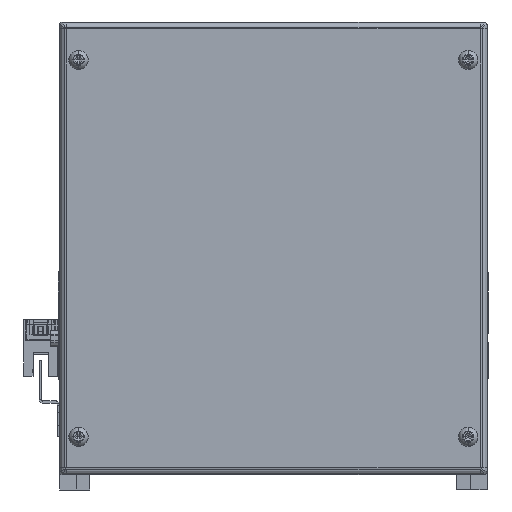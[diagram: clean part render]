
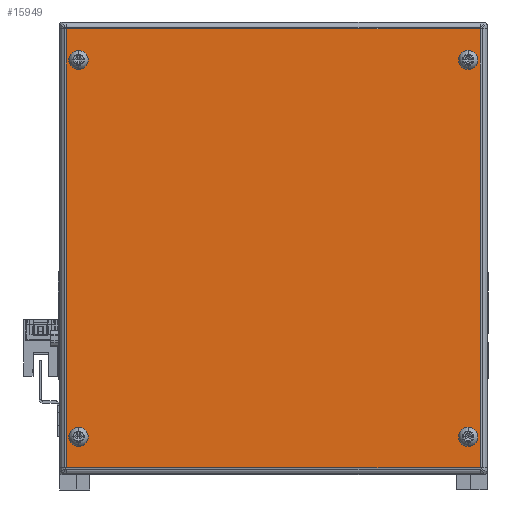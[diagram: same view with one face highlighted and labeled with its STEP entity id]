
A CAD part, front view. The second image highlights one B-rep face of the part: STEP entity #15949.
In plain terms, the highlighted planar face has unit normal (0, -1, 0) as drawn and (0, 0, -1) by its records, which use the part's own axes.
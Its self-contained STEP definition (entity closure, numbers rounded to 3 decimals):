
#87 = EDGE_LOOP ( 'NONE', ( #10255, #37662 ) ) ;
#102 = CIRCLE ( 'NONE', #13486, 2.25 ) ;
#402 = ORIENTED_EDGE ( 'NONE', *, *, #27666, .F. ) ;
#908 = VECTOR ( 'NONE', #5946, 1000. ) ;
#1025 = AXIS2_PLACEMENT_3D ( 'NONE', #35535, #29241, #13561 ) ;
#1084 = AXIS2_PLACEMENT_3D ( 'NONE', #15056, #40496, #2435 ) ;
#1915 = DIRECTION ( 'NONE',  ( 0., 0., -1. ) ) ;
#2435 = DIRECTION ( 'NONE',  ( 0., -1., 0. ) ) ;
#3034 = DIRECTION ( 'NONE',  ( 0., -1., 0. ) ) ;
#3249 = DIRECTION ( 'NONE',  ( 0., -1., 0. ) ) ;
#3390 = DIRECTION ( 'NONE',  ( 0., 0., -1. ) ) ;
#3409 = FACE_BOUND ( 'NONE', #87, .T. ) ;
#3608 = AXIS2_PLACEMENT_3D ( 'NONE', #5867, #12220, #12353 ) ;
#3673 = ORIENTED_EDGE ( 'NONE', *, *, #32552, .T. ) ;
#4579 = AXIS2_PLACEMENT_3D ( 'NONE', #11339, #1915, #33729 ) ;
#5061 = VECTOR ( 'NONE', #37919, 1000. ) ;
#5438 = VERTEX_POINT ( 'NONE', #24183 ) ;
#5671 = CARTESIAN_POINT ( 'NONE',  ( 72.531, 57.499, -242.5 ) ) ;
#5812 = DIRECTION ( 'NONE',  ( 0., -1., 0. ) ) ;
#5867 = CARTESIAN_POINT ( 'NONE',  ( 67.767, 45.206, -242.5 ) ) ;
#5946 = DIRECTION ( 'NONE',  ( 0., -1., 0. ) ) ;
#6219 = AXIS2_PLACEMENT_3D ( 'NONE', #38640, #3390, #3249 ) ;
#6342 = CIRCLE ( 'NONE', #4579, 2.25 ) ;
#6354 = EDGE_CURVE ( 'NONE', #10959, #32589, #39271, .T. ) ;
#6360 = EDGE_LOOP ( 'NONE', ( #7571, #402 ) ) ;
#7571 = ORIENTED_EDGE ( 'NONE', *, *, #10763, .F. ) ;
#7922 = ORIENTED_EDGE ( 'NONE', *, *, #21013, .T. ) ;
#8196 = VERTEX_POINT ( 'NONE', #25945 ) ;
#8355 = FACE_BOUND ( 'NONE', #10977, .T. ) ;
#8443 = VERTEX_POINT ( 'NONE', #27151 ) ;
#8971 = PLANE ( 'NONE',  #25881 ) ;
#9337 = FACE_BOUND ( 'NONE', #9569, .T. ) ;
#9569 = EDGE_LOOP ( 'NONE', ( #19521, #17855 ) ) ;
#9810 = CARTESIAN_POINT ( 'NONE',  ( 67.767, 42.956, -242.5 ) ) ;
#10255 = ORIENTED_EDGE ( 'NONE', *, *, #20416, .F. ) ;
#10306 = CIRCLE ( 'NONE', #17689, 2.25 ) ;
#10411 = CARTESIAN_POINT ( 'NONE',  ( -86.233, -101.544, -242.5 ) ) ;
#10763 = EDGE_CURVE ( 'NONE', #5438, #25485, #102, .T. ) ;
#10959 = VERTEX_POINT ( 'NONE', #40790 ) ;
#10977 = EDGE_LOOP ( 'NONE', ( #16316, #23840 ) ) ;
#11339 = CARTESIAN_POINT ( 'NONE',  ( 67.767, -103.794, -242.5 ) ) ;
#12001 = CIRCLE ( 'NONE', #6219, 2.25 ) ;
#12220 = DIRECTION ( 'NONE',  ( 0., 0., -1. ) ) ;
#12353 = DIRECTION ( 'NONE',  ( 0., -1., 0. ) ) ;
#12751 = CIRCLE ( 'NONE', #27394, 2.25 ) ;
#13486 = AXIS2_PLACEMENT_3D ( 'NONE', #23919, #30322, #14520 ) ;
#13561 = DIRECTION ( 'NONE',  ( 0., -1., 0. ) ) ;
#13799 = FACE_BOUND ( 'NONE', #6360, .T. ) ;
#14520 = DIRECTION ( 'NONE',  ( 0., -1., 0. ) ) ;
#14953 = VERTEX_POINT ( 'NONE', #15783 ) ;
#15056 = CARTESIAN_POINT ( 'NONE',  ( 67.767, -103.794, -242.5 ) ) ;
#15783 = CARTESIAN_POINT ( 'NONE',  ( 67.767, 47.456, -242.5 ) ) ;
#15897 = EDGE_CURVE ( 'NONE', #32589, #27483, #28686, .T. ) ;
#15949 = ADVANCED_FACE ( 'NONE', ( #9337, #13799, #8355, #3409, #22234 ), #8971, .T. ) ;
#16116 = CIRCLE ( 'NONE', #1025, 2.25 ) ;
#16316 = ORIENTED_EDGE ( 'NONE', *, *, #36470, .F. ) ;
#17689 = AXIS2_PLACEMENT_3D ( 'NONE', #22381, #28224, #34932 ) ;
#17855 = ORIENTED_EDGE ( 'NONE', *, *, #38811, .F. ) ;
#18550 = CARTESIAN_POINT ( 'NONE',  ( -86.233, -103.794, -242.5 ) ) ;
#19521 = ORIENTED_EDGE ( 'NONE', *, *, #27582, .F. ) ;
#20416 = EDGE_CURVE ( 'NONE', #25910, #14953, #12001, .T. ) ;
#21013 = EDGE_CURVE ( 'NONE', #34403, #10959, #26329, .T. ) ;
#22234 = FACE_OUTER_BOUND ( 'NONE', #39986, .T. ) ;
#22381 = CARTESIAN_POINT ( 'NONE',  ( -86.233, 45.206, -242.5 ) ) ;
#22656 = EDGE_CURVE ( 'NONE', #30663, #8196, #10306, .T. ) ;
#23076 = DIRECTION ( 'NONE',  ( 0., 1., 0. ) ) ;
#23210 = CARTESIAN_POINT ( 'NONE',  ( -90.996, -116.087, -242.5 ) ) ;
#23840 = ORIENTED_EDGE ( 'NONE', *, *, #22656, .F. ) ;
#23919 = CARTESIAN_POINT ( 'NONE',  ( -86.233, -103.794, -242.5 ) ) ;
#24183 = CARTESIAN_POINT ( 'NONE',  ( -86.233, -106.044, -242.5 ) ) ;
#24388 = CARTESIAN_POINT ( 'NONE',  ( 67.767, -106.044, -242.5 ) ) ;
#25485 = VERTEX_POINT ( 'NONE', #10411 ) ;
#25534 = CARTESIAN_POINT ( 'NONE',  ( 72.531, 57.469, -242.5 ) ) ;
#25881 = AXIS2_PLACEMENT_3D ( 'NONE', #30913, #37450, #5812 ) ;
#25910 = VERTEX_POINT ( 'NONE', #9810 ) ;
#25945 = CARTESIAN_POINT ( 'NONE',  ( -86.233, 42.956, -242.5 ) ) ;
#26329 = LINE ( 'NONE', #23210, #35305 ) ;
#27151 = CARTESIAN_POINT ( 'NONE',  ( 67.767, -101.544, -242.5 ) ) ;
#27394 = AXIS2_PLACEMENT_3D ( 'NONE', #18550, #34704, #3034 ) ;
#27458 = DIRECTION ( 'NONE',  ( 1., 0., 0. ) ) ;
#27483 = VERTEX_POINT ( 'NONE', #37053 ) ;
#27582 = EDGE_CURVE ( 'NONE', #32938, #8443, #6342, .T. ) ;
#27666 = EDGE_CURVE ( 'NONE', #25485, #5438, #12751, .T. ) ;
#28224 = DIRECTION ( 'NONE',  ( 0., 0., -1. ) ) ;
#28686 = LINE ( 'NONE', #5671, #908 ) ;
#29241 = DIRECTION ( 'NONE',  ( 0., 0., -1. ) ) ;
#30322 = DIRECTION ( 'NONE',  ( 0., 0., -1. ) ) ;
#30663 = VERTEX_POINT ( 'NONE', #31065 ) ;
#30808 = VECTOR ( 'NONE', #27458, 1000. ) ;
#30913 = CARTESIAN_POINT ( 'NONE',  ( 41.227, 31.556, -242.5 ) ) ;
#31065 = CARTESIAN_POINT ( 'NONE',  ( -86.233, 47.456, -242.5 ) ) ;
#31139 = EDGE_CURVE ( 'NONE', #14953, #25910, #40834, .T. ) ;
#32552 = EDGE_CURVE ( 'NONE', #27483, #34403, #33370, .T. ) ;
#32589 = VERTEX_POINT ( 'NONE', #25534 ) ;
#32938 = VERTEX_POINT ( 'NONE', #24388 ) ;
#33370 = LINE ( 'NONE', #34888, #5061 ) ;
#33729 = DIRECTION ( 'NONE',  ( 0., -1., 0. ) ) ;
#33736 = CARTESIAN_POINT ( 'NONE',  ( -90.996, -116.058, -242.5 ) ) ;
#33907 = CARTESIAN_POINT ( 'NONE',  ( -91.026, 57.469, -242.5 ) ) ;
#34403 = VERTEX_POINT ( 'NONE', #33736 ) ;
#34704 = DIRECTION ( 'NONE',  ( 0., 0., -1. ) ) ;
#34888 = CARTESIAN_POINT ( 'NONE',  ( 72.56, -116.058, -242.5 ) ) ;
#34932 = DIRECTION ( 'NONE',  ( 0., -1., 0. ) ) ;
#35305 = VECTOR ( 'NONE', #23076, 1000. ) ;
#35535 = CARTESIAN_POINT ( 'NONE',  ( -86.233, 45.206, -242.5 ) ) ;
#36470 = EDGE_CURVE ( 'NONE', #8196, #30663, #16116, .T. ) ;
#36622 = ORIENTED_EDGE ( 'NONE', *, *, #15897, .T. ) ;
#37053 = CARTESIAN_POINT ( 'NONE',  ( 72.531, -116.058, -242.5 ) ) ;
#37450 = DIRECTION ( 'NONE',  ( 0., 0., -1. ) ) ;
#37662 = ORIENTED_EDGE ( 'NONE', *, *, #31139, .F. ) ;
#37919 = DIRECTION ( 'NONE',  ( -1., 0., 0. ) ) ;
#38374 = ORIENTED_EDGE ( 'NONE', *, *, #6354, .T. ) ;
#38640 = CARTESIAN_POINT ( 'NONE',  ( 67.767, 45.206, -242.5 ) ) ;
#38811 = EDGE_CURVE ( 'NONE', #8443, #32938, #39553, .T. ) ;
#39271 = LINE ( 'NONE', #33907, #30808 ) ;
#39553 = CIRCLE ( 'NONE', #1084, 2.25 ) ;
#39986 = EDGE_LOOP ( 'NONE', ( #36622, #3673, #7922, #38374 ) ) ;
#40496 = DIRECTION ( 'NONE',  ( 0., 0., -1. ) ) ;
#40790 = CARTESIAN_POINT ( 'NONE',  ( -90.996, 57.469, -242.5 ) ) ;
#40834 = CIRCLE ( 'NONE', #3608, 2.25 ) ;
